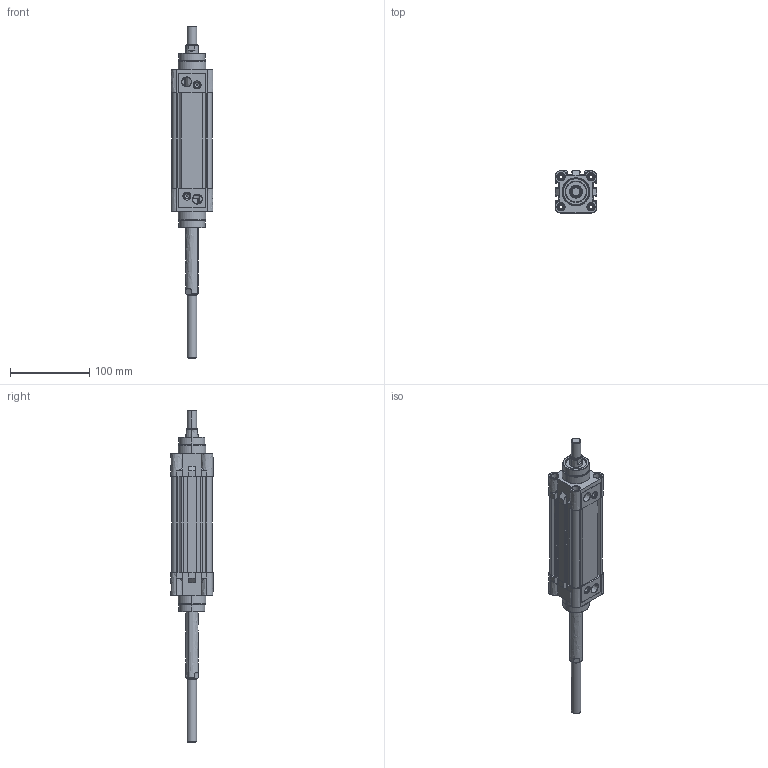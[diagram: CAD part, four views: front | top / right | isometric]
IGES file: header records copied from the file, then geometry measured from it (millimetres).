
Start section: SolidWorks IGES file using analytic representation for surfaces
Global section: file name: D:\ARICA 3D ﾇﾝZﾝMLER\3D IGES\KDNC ﾇﾝFT MﾝLLﾝ STROK AYARLI\KDNC40 STROK AYARLI\KDNC40X75CIFTMILLI-STROK AYARLI-CYLINDER.IGS; native system: SolidWorks 2013; preprocessor: SolidWorks 2013; author: user; date: 160319.135251; units: millimetre
Bounding box: 53 x 53.3 x 419.1 mm (x, y, z)
Surface area: 142251.9 mm2 (no closed solid volume)
Topology: 0 solids, 0 shells, 736 faces, 11600 edges, 11598 vertices
Faces by surface type: revolution 412, bspline 324
